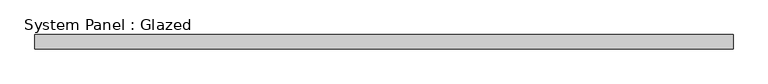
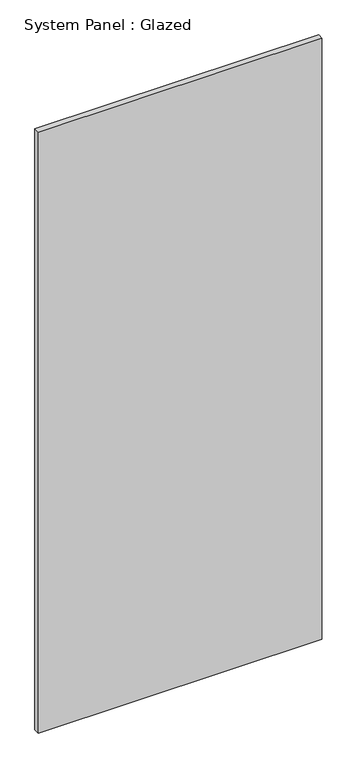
"""IFC4 building model written with IfcOpenShell, lengths in millimetres: plate geometry, System Panel : Glazed."""

from ifc_helpers import new_model, si_unit, origin, origin_with_axes, place, context, project, spatial, polyline, outline, extrude, source, transform, mapped, element, save


def system_panel_glazed_19f08edc(model_context):
    return source(origin(), model_context, "Body", "SweptSolid", [
        extrude(outline(polyline([(625.0000002, 19.05), (-625.0000002, 19.05), (-625.0000002, 44.45), (625.0000002, 44.45), (625.0000002, 19.05)])), origin_with_axes(), (0.0, 0.0, 1.0), 2800.0),
    ])


if __name__ == "__main__":
    model = new_model("IFC4")
    model_context = context("Model", 3, world=origin())
    ifc_project = project(units=[si_unit("LENGTHUNIT", "METRE", prefix="MILLI")], contexts=[model_context])
    site = spatial("IfcSite", under=ifc_project)
    building = spatial("IfcBuilding", under=site)
    placement = place(None, origin())
    system_panel_glazed_shape = system_panel_glazed_19f08edc(model_context)
    element("IfcPlate", 1, ObjectType="System Panel : Glazed", at=placement, inside=building, context=model_context, shape_type="MappedRepresentation", body=[
        mapped(system_panel_glazed_shape, transform((0.0, 0.0, 0.0), x_axis=(1.0, 0.0, 0.0), y_axis=(0.0, 1.0, 0.0), z_axis=(0.0, 0.0, 1.0))),
    ])
    save(model, "model.ifc")
